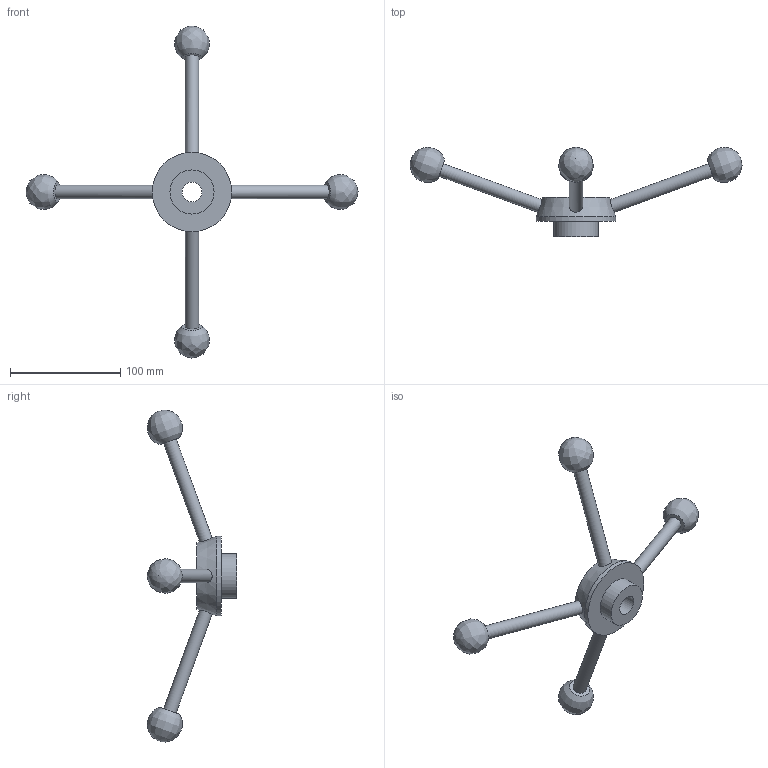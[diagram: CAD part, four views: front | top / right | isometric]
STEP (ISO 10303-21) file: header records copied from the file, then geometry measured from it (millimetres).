
FILE_DESCRIPTION( ( 'STEP AP203' ), '1' );
FILE_NAME( 'C:/Temp/Ganter_Step_05_03_2020/data/2_1/gn_213/gn_213_b/Turret lever GN 213-72-B18.stp', '2020-03-05T11:51:01', ( 'License CC BY-ND 4.0' ), ( 'CADENAS' ), ' ', 'PARTsolutions', ' ' );
FILE_SCHEMA( ( 'CONFIG_CONTROL_DESIGN' ) );
Length unit declared in the file: millimetre
Products named in the file (1): _Turret lever GN 213-72-B18
Bounding box: 300.57 x 81 x 300.57 mm (x, y, z)
Volume: 196873.3 mm3; surface area: 41293.9 mm2
Topology: 1 solids, 1 shells, 19 faces, 42 edges, 29 vertices
Faces by surface type: cylinder 7, plane 7, bspline 4, cone 1
Full cylindrical faces by diameter (mm): 12 x4, 18 x1, 40 x1, 72 x1
Entity records: 860 total; most frequent: CARTESIAN_POINT 502, DIRECTION 62, EDGE_LOOP 38, ORIENTED_EDGE 38, AXIS2_PLACEMENT_3D 31, FACE_OUTER_BOUND 26, VERTEX_POINT 23, ADVANCED_FACE 19
